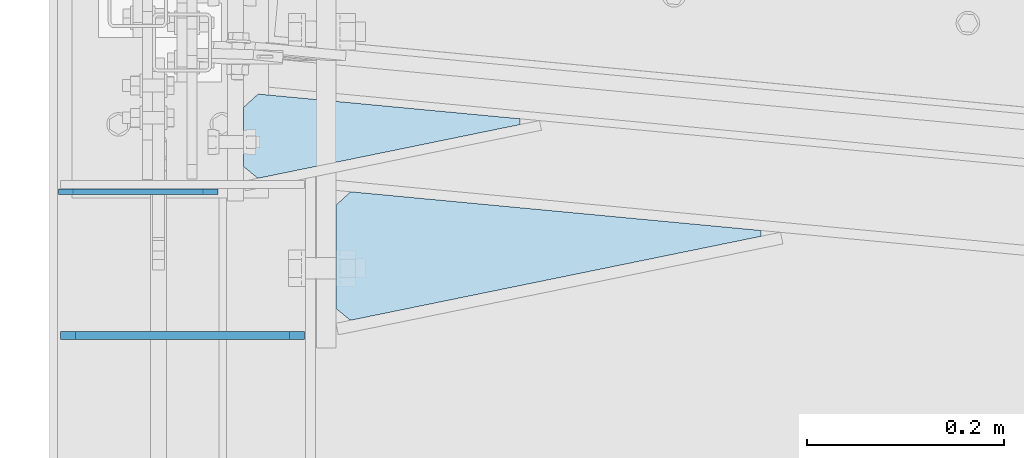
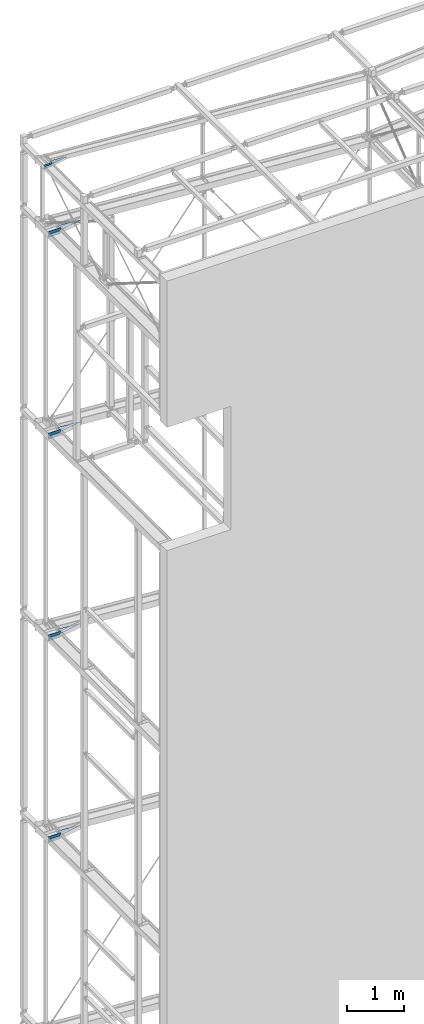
# One storey, part 146 of 271: 15 plates, 10 elements without a shape of their own.
"""IFC2X3 building model written with IfcOpenShell, lengths in millimetres."""

from ifc_helpers import new_model, si_unit, frame, origin_with_axes, place, context, subcontext, project, spatial, polyline, outline, extrude, material, type_object, element, aggregate, save


model = new_model("IFC2X3")

# Units and contexts
model_context = context("Model", 3, precision=1e-05, world=origin_with_axes())
body_context = subcontext(model_context, "Body", "Model", "MODEL_VIEW")
ifc_project = project(units=[si_unit("LENGTHUNIT", "METRE", prefix="MILLI"), si_unit("AREAUNIT", "SQUARE_METRE"), si_unit("VOLUMEUNIT", "CUBIC_METRE"), si_unit("MASSUNIT", "GRAM", prefix="KILO"), si_unit("TIMEUNIT", "SECOND"), si_unit("PLANEANGLEUNIT", "RADIAN"), si_unit("SOLIDANGLEUNIT", "STERADIAN"), si_unit("THERMODYNAMICTEMPERATUREUNIT", "DEGREE_CELSIUS"), si_unit("LUMINOUSINTENSITYUNIT", "LUMEN")], contexts=[model_context])

# Site, building, storey
site_placement = place(None, origin_with_axes())
site = spatial("IfcSite", under=ifc_project, at=site_placement, Name="Undefined", CompositionType="ELEMENT")
building_placement = place(site_placement, origin_with_axes())
building = spatial("IfcBuilding", under=site, at=building_placement, Name="Undefined", CompositionType="ELEMENT")
storey_placement = place(building_placement, origin_with_axes())
storey = spatial("IfcBuildingStorey", under=building, at=storey_placement, Name="Undefined", CompositionType="ELEMENT", Elevation=0.0)

# Assembly, plates
assembly_1_placement = place(storey_placement, origin_with_axes())
assembly_1 = element("IfcElementAssembly", 1, at=assembly_1_placement, inside=storey, AssemblyPlace="NOTDEFINED", PredefinedType="RIGID_FRAME")
ifc_material = material(Name="STEEL/S355JR")
plate_type_1 = type_object("IfcPlateType", Name="BL8*60", PredefinedType="NOTDEFINED")
plate_1_placement = place(assembly_1_placement, frame((247.175687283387, 3994.32774434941, 18707.649999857), z_axis=(0.0, 1.0, 0.0), x_axis=(0.0, 0.0, -1.0)))
plate_1 = element("IfcPlate", 2, at=plate_1_placement, type_object=plate_type_1, material=ifc_material, Name="BLACHA", ObjectType="BL8*60", context=body_context, shape_type="SweptSolid", body=[
    extrude(outline(polyline([(0.0, 0.0), (45.0, 0.0), (60.0, 15.0), (60.0, 232.600006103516), (45.0, 247.600006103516), (0.0, 247.600006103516), (0.0, 0.0)])), frame((0.0, 0.0, -4.0), z_axis=(0.0, 0.0, 1.0), x_axis=(1.0, 0.0, 0.0)), (0.0, 0.0, 1.0), 8.0),
])
plate_2_placement = place(assembly_1_placement, frame((247.175687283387, 3994.32774434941, 18581.049999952), z_axis=(0.0, -1.0, 0.0), x_axis=(0.0, 0.0, 1.0)))
plate_2 = element("IfcPlate", 3, at=plate_2_placement, type_object=plate_type_1, material=ifc_material, Name="BLACHA", ObjectType="BL8*60", context=body_context, shape_type="SweptSolid", body=[
    extrude(outline(polyline([(0.0, 0.0), (45.0, 0.0), (60.0, 15.0), (60.0, 232.600006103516), (45.0, 247.600006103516), (0.0, 247.600006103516), (0.0, 0.0)])), frame((0.0, 0.0, -4.0), z_axis=(0.0, 0.0, 1.0), x_axis=(1.0, 0.0, 0.0)), (0.0, 0.0, 1.0), 8.0),
])
aggregate(assembly_1, [plate_1, plate_2])

assembly_2_placement = place(storey_placement, origin_with_axes())
assembly_2 = element("IfcElementAssembly", 4, at=assembly_2_placement, inside=storey, AssemblyPlace="NOTDEFINED", PredefinedType="RIGID_FRAME")
plate_3_placement = place(assembly_2_placement, frame((247.175687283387, 3994.32774434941, 14387.649999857), z_axis=(0.0, 1.0, 0.0), x_axis=(0.0, 0.0, -1.0)))
plate_3 = element("IfcPlate", 5, at=plate_3_placement, type_object=plate_type_1, material=ifc_material, Name="BLACHA", ObjectType="BL8*60", context=body_context, shape_type="SweptSolid", body=[
    extrude(outline(polyline([(0.0, 0.0), (45.0, 0.0), (60.0, 15.0), (60.0, 232.600006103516), (45.0, 247.600006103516), (0.0, 247.600006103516), (0.0, 0.0)])), frame((0.0, 0.0, -4.0), z_axis=(0.0, 0.0, 1.0), x_axis=(1.0, 0.0, 0.0)), (0.0, 0.0, 1.0), 8.0),
])
plate_4_placement = place(assembly_2_placement, frame((247.175687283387, 3994.32774434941, 14261.049999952), z_axis=(0.0, -1.0, 0.0), x_axis=(0.0, 0.0, 1.0)))
plate_4 = element("IfcPlate", 6, at=plate_4_placement, type_object=plate_type_1, material=ifc_material, Name="BLACHA", ObjectType="BL8*60", context=body_context, shape_type="SweptSolid", body=[
    extrude(outline(polyline([(0.0, 0.0), (45.0, 0.0), (60.0, 15.0), (60.0, 232.600006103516), (45.0, 247.600006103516), (0.0, 247.600006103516), (0.0, 0.0)])), frame((0.0, 0.0, -4.0), z_axis=(0.0, 0.0, 1.0), x_axis=(1.0, 0.0, 0.0)), (0.0, 0.0, 1.0), 8.0),
])
aggregate(assembly_2, [plate_3, plate_4])

assembly_3_placement = place(storey_placement, origin_with_axes())
assembly_3 = element("IfcElementAssembly", 7, at=assembly_3_placement, inside=storey, AssemblyPlace="NOTDEFINED", PredefinedType="RIGID_FRAME")
plate_5_placement = place(assembly_3_placement, frame((247.175687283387, 3994.32774434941, 10067.649999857), z_axis=(0.0, 1.0, 0.0), x_axis=(0.0, 0.0, -1.0)))
plate_5 = element("IfcPlate", 8, at=plate_5_placement, type_object=plate_type_1, material=ifc_material, Name="BLACHA", ObjectType="BL8*60", context=body_context, shape_type="SweptSolid", body=[
    extrude(outline(polyline([(0.0, 0.0), (45.0, 0.0), (60.0, 15.0), (60.0, 232.600006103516), (45.0, 247.600006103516), (0.0, 247.600006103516), (0.0, 0.0)])), frame((0.0, 0.0, -4.0), z_axis=(0.0, 0.0, 1.0), x_axis=(1.0, 0.0, 0.0)), (0.0, 0.0, 1.0), 8.0),
])
plate_6_placement = place(assembly_3_placement, frame((247.175687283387, 3994.32774434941, 9941.04999995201), z_axis=(0.0, -1.0, 0.0), x_axis=(0.0, 0.0, 1.0)))
plate_6 = element("IfcPlate", 9, at=plate_6_placement, type_object=plate_type_1, material=ifc_material, Name="BLACHA", ObjectType="BL8*60", context=body_context, shape_type="SweptSolid", body=[
    extrude(outline(polyline([(0.0, 0.0), (45.0, 0.0), (60.0, 15.0), (60.0, 232.600006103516), (45.0, 247.600006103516), (0.0, 247.600006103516), (0.0, 0.0)])), frame((0.0, 0.0, -4.0), z_axis=(0.0, 0.0, 1.0), x_axis=(1.0, 0.0, 0.0)), (0.0, 0.0, 1.0), 8.0),
])
aggregate(assembly_3, [plate_5, plate_6])

assembly_4_placement = place(storey_placement, origin_with_axes())
assembly_4 = element("IfcElementAssembly", 10, at=assembly_4_placement, inside=storey, AssemblyPlace="NOTDEFINED", PredefinedType="RIGID_FRAME")
plate_7_placement = place(assembly_4_placement, frame((247.175687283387, 3994.32774434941, 5747.64999985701), z_axis=(0.0, 1.0, 0.0), x_axis=(0.0, 0.0, -1.0)))
plate_7 = element("IfcPlate", 11, at=plate_7_placement, type_object=plate_type_1, material=ifc_material, Name="BLACHA", ObjectType="BL8*60", context=body_context, shape_type="SweptSolid", body=[
    extrude(outline(polyline([(0.0, 0.0), (45.0, 0.0), (60.0, 15.0), (60.0, 232.600006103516), (45.0, 247.600006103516), (0.0, 247.600006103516), (0.0, 0.0)])), frame((0.0, 0.0, -4.0), z_axis=(0.0, 0.0, 1.0), x_axis=(1.0, 0.0, 0.0)), (0.0, 0.0, 1.0), 8.0),
])
plate_8_placement = place(assembly_4_placement, frame((247.175687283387, 3994.32774434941, 5621.04999995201), z_axis=(0.0, -1.0, 0.0), x_axis=(0.0, 0.0, 1.0)))
plate_8 = element("IfcPlate", 12, at=plate_8_placement, type_object=plate_type_1, material=ifc_material, Name="BLACHA", ObjectType="BL8*60", context=body_context, shape_type="SweptSolid", body=[
    extrude(outline(polyline([(0.0, 0.0), (45.0, 0.0), (60.0, 15.0), (60.0, 232.600006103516), (45.0, 247.600006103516), (0.0, 247.600006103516), (0.0, 0.0)])), frame((0.0, 0.0, -4.0), z_axis=(0.0, 0.0, 1.0), x_axis=(1.0, 0.0, 0.0)), (0.0, 0.0, 1.0), 8.0),
])
aggregate(assembly_4, [plate_7, plate_8])

assembly_5_placement = place(storey_placement, origin_with_axes())
assembly_5 = element("IfcElementAssembly", 13, at=assembly_5_placement, inside=storey, AssemblyPlace="NOTDEFINED", PredefinedType="RIGID_FRAME")
plate_type_2 = type_object("IfcPlateType", Name="BL6*40", PredefinedType="NOTDEFINED")
plate_9_placement = place(assembly_5_placement, frame((159.375687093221, 4140.44841145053, 20047.0), z_axis=(0.0, 1.0, 0.0), x_axis=(0.0, 0.0, -1.0)))
plate_9 = element("IfcPlate", 14, at=plate_9_placement, type_object=plate_type_2, material=ifc_material, Name="BLACHA", ObjectType="BL6*40", context=body_context, shape_type="SweptSolid", body=[
    extrude(outline(polyline([(0.0, 0.0), (25.0, -1.13686837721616e-13), (40.0, 14.9999999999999), (40.0, 147.0), (25.0, 162.0), (0.0, 162.0), (0.0, 0.0)])), frame((0.0, 0.0, -3.0), z_axis=(0.0, 0.0, 1.0), x_axis=(1.0, 0.0, 0.0)), (0.0, 0.0, 1.0), 6.0),
])
plate_10_placement = place(assembly_5_placement, frame((159.375687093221, 4140.44841145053, 19961.699999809), z_axis=(0.0, -1.0, 0.0), x_axis=(0.0, 0.0, 1.0)))
plate_10 = element("IfcPlate", 15, at=plate_10_placement, type_object=plate_type_2, material=ifc_material, Name="BLACHA", ObjectType="BL6*40", context=body_context, shape_type="SweptSolid", body=[
    extrude(outline(polyline([(0.0, 0.0), (25.0, -1.13686837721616e-13), (40.0, 14.9999999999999), (40.0, 147.0), (25.0, 162.0), (0.0, 162.0), (0.0, 0.0)])), frame((0.0, 0.0, -3.0), z_axis=(0.0, 0.0, 1.0), x_axis=(1.0, 0.0, 0.0)), (0.0, 0.0, 1.0), 6.0),
])
aggregate(assembly_5, [plate_9, plate_10])

# Assembly, plate
assembly_6_placement = place(storey_placement, origin_with_axes())
assembly_6 = element("IfcElementAssembly", 16, at=assembly_6_placement, inside=storey, AssemblyPlace="NOTDEFINED", PredefinedType="RIGID_FRAME")
plate_type_3 = type_object("IfcPlateType", Name="BL6*84", PredefinedType="NOTDEFINED")
plate_11_placement = place(assembly_6_placement, frame((185.375687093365, 4151.13968981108, 20004.3499999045), z_axis=(0.0, 0.0, -1.0), x_axis=(0.0, 1.0, 0.0)))
plate_11 = element("IfcPlate", 17, at=plate_11_placement, type_object=plate_type_3, material=ifc_material, Name="BLACHA", ObjectType="BL6*84", context=body_context, shape_type="SweptSolid", body=[
    extrude(outline(polyline([(3.01110479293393, 14.6946673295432), (15.0, -1.59872115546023e-14), (75.0, -7.27595761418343e-12), (88.5911610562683, 14.9336925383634), (63.5057292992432, 280.839264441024), (57.612470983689, 281.157964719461), (3.01110479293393, 14.6946673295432)])), frame((0.0, 0.0, -3.0), z_axis=(0.0, 0.0, 1.0), x_axis=(1.0, 0.0, 0.0)), (0.0, 0.0, 1.0), 6.0),
])
aggregate(assembly_6, [plate_11])

assembly_7_placement = place(storey_placement, origin_with_axes())
assembly_7 = element("IfcElementAssembly", 18, at=assembly_7_placement, inside=storey, AssemblyPlace="NOTDEFINED", PredefinedType="RIGID_FRAME")
plate_type_4 = type_object("IfcPlateType", Name="BL8*128", PredefinedType="NOTDEFINED")
plate_12_placement = place(assembly_7_placement, frame((279.375687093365, 4006.87215400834, 18644.3499999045), z_axis=(0.0, 0.0, -1.0), x_axis=(0.0, 1.0, 0.0)))
plate_12 = element("IfcPlate", 19, at=plate_12_placement, type_object=plate_type_4, material=ifc_material, Name="BLACHA", ObjectType="BL8*128", context=body_context, shape_type="SweptSolid", body=[
    extrude(outline(polyline([(3.00624160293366, 14.6956630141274), (15.0, -1.59872115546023e-14), (120.0, 0.0), (133.591161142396, 14.9336925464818), (94.2702746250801, 431.735107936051), (88.3835006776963, 432.052480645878), (3.00624160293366, 14.6956630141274)])), frame((0.0, 0.0, -4.0), z_axis=(0.0, 0.0, 1.0), x_axis=(1.0, 0.0, 0.0)), (0.0, 0.0, 1.0), 8.0),
])
aggregate(assembly_7, [plate_12])

assembly_8_placement = place(storey_placement, origin_with_axes())
assembly_8 = element("IfcElementAssembly", 20, at=assembly_8_placement, inside=storey, AssemblyPlace="NOTDEFINED", PredefinedType="RIGID_FRAME")
plate_13_placement = place(assembly_8_placement, frame((279.375687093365, 4006.87215400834, 14324.3499999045), z_axis=(0.0, 0.0, -1.0), x_axis=(0.0, 1.0, 0.0)))
plate_13 = element("IfcPlate", 21, at=plate_13_placement, type_object=plate_type_4, material=ifc_material, Name="BLACHA", ObjectType="BL8*128", context=body_context, shape_type="SweptSolid", body=[
    extrude(outline(polyline([(3.00624160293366, 14.6956630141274), (15.0, -1.59872115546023e-14), (120.0, 0.0), (133.591161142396, 14.9336925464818), (94.2702746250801, 431.735107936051), (88.3835006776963, 432.052480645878), (3.00624160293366, 14.6956630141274)])), frame((0.0, 0.0, -4.0), z_axis=(0.0, 0.0, 1.0), x_axis=(1.0, 0.0, 0.0)), (0.0, 0.0, 1.0), 8.0),
])
aggregate(assembly_8, [plate_13])

assembly_9_placement = place(storey_placement, origin_with_axes())
assembly_9 = element("IfcElementAssembly", 22, at=assembly_9_placement, inside=storey, AssemblyPlace="NOTDEFINED", PredefinedType="RIGID_FRAME")
plate_14_placement = place(assembly_9_placement, frame((279.375687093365, 4006.87215400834, 10004.3499999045), z_axis=(0.0, 0.0, -1.0), x_axis=(0.0, 1.0, 0.0)))
plate_14 = element("IfcPlate", 23, at=plate_14_placement, type_object=plate_type_4, material=ifc_material, Name="BLACHA", ObjectType="BL8*128", context=body_context, shape_type="SweptSolid", body=[
    extrude(outline(polyline([(3.00624160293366, 14.6956630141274), (15.0, -1.59872115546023e-14), (120.0, 0.0), (133.591161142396, 14.9336925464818), (94.2702746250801, 431.735107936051), (88.3835006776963, 432.052480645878), (3.00624160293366, 14.6956630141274)])), frame((0.0, 0.0, -4.0), z_axis=(0.0, 0.0, 1.0), x_axis=(1.0, 0.0, 0.0)), (0.0, 0.0, 1.0), 8.0),
])
aggregate(assembly_9, [plate_14])

assembly_10_placement = place(storey_placement, origin_with_axes())
assembly_10 = element("IfcElementAssembly", 24, at=assembly_10_placement, inside=storey, AssemblyPlace="NOTDEFINED", PredefinedType="RIGID_FRAME")
plate_15_placement = place(assembly_10_placement, frame((279.375687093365, 4006.87215400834, 5684.34999990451), z_axis=(0.0, 0.0, -1.0), x_axis=(0.0, 1.0, 0.0)))
plate_15 = element("IfcPlate", 25, at=plate_15_placement, type_object=plate_type_4, material=ifc_material, Name="BLACHA", ObjectType="BL8*128", context=body_context, shape_type="SweptSolid", body=[
    extrude(outline(polyline([(3.00624160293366, 14.6956630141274), (15.0, -1.59872115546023e-14), (120.0, 0.0), (133.591161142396, 14.9336925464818), (94.2702746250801, 431.735107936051), (88.3835006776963, 432.052480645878), (3.00624160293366, 14.6956630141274)])), frame((0.0, 0.0, -4.0), z_axis=(0.0, 0.0, 1.0), x_axis=(1.0, 0.0, 0.0)), (0.0, 0.0, 1.0), 8.0),
])
aggregate(assembly_10, [plate_15])

save(model, "model.ifc")
